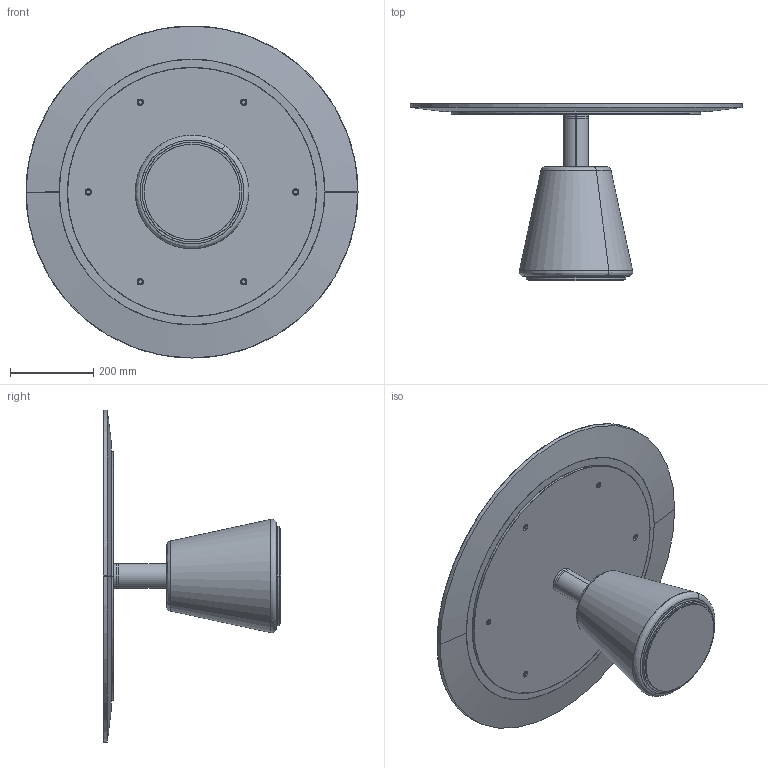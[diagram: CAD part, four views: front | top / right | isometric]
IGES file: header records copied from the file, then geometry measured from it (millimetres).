
Start section: SolidWorks IGES file using analytic representation for surfaces
Global section: file name: C:\Users\SoldaClaudio\Desktop\MENHIR\3D\004227.IGS; native system: SolidWorks 2019; preprocessor: SolidWorks 2019; author: SoldaClaudio; date: 201218.104339; units: millimetre
Bounding box: 800 x 428 x 800 mm (x, y, z)
Surface area: 2287396.7 mm2 (no closed solid volume)
Topology: 0 solids, 0 shells, 310 faces, 5374 edges, 5374 vertices
Faces by surface type: bspline 172, revolution 138
